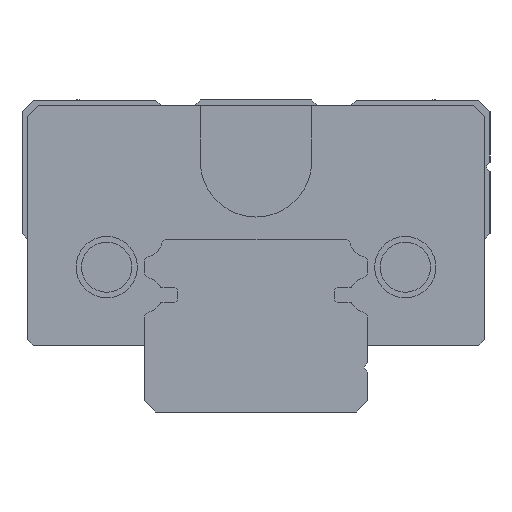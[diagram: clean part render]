
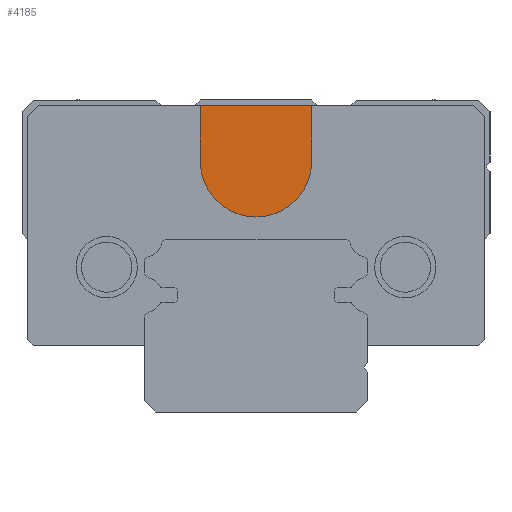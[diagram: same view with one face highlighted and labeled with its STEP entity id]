
A CAD part, left-side view. The second image highlights one B-rep face of the part: STEP entity #4185.
In plain terms, the highlighted planar face has unit normal (-1, 0, 0).
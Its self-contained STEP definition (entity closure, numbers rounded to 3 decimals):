
#4070=CARTESIAN_POINT('',(170.608,-5.0,22.5));
#4071=VERTEX_POINT('',#4070);
#4072=CARTESIAN_POINT('',(170.608,-5.0,27.5));
#4073=VERTEX_POINT('',#4072);
#4074=CARTESIAN_POINT('',(170.608,-5.0,22.5));
#4075=DIRECTION('',(0.0,0.0,1.0));
#4076=VECTOR('',#4075,5.0);
#4077=LINE('',#4074,#4076);
#4078=EDGE_CURVE('',#4071,#4073,#4077,.T.);
#4110=CARTESIAN_POINT('',(170.608,5.0,27.5));
#4111=VERTEX_POINT('',#4110);
#4112=CARTESIAN_POINT('',(170.608,5.0,22.5));
#4113=VERTEX_POINT('',#4112);
#4114=CARTESIAN_POINT('',(170.608,5.0,27.5));
#4115=DIRECTION('',(0.0,0.0,-1.0));
#4116=VECTOR('',#4115,5.0);
#4117=LINE('',#4114,#4116);
#4118=EDGE_CURVE('',#4111,#4113,#4117,.T.);
#4150=CARTESIAN_POINT('',(170.608,0.0,22.5));
#4151=DIRECTION('',(-1.0,0.0,0.0));
#4152=DIRECTION('',(0.0,-1.0,0.0));
#4153=AXIS2_PLACEMENT_3D('',#4150,#4151,#4152);
#4154=CIRCLE('',#4153,5.0);
#4155=EDGE_CURVE('',#4113,#4071,#4154,.T.);
#4169=CARTESIAN_POINT('',(170.608,0.,23.338));
#4170=DIRECTION('',(1.0,0.0,0.0));
#4171=DIRECTION('',(0.0,0.0,-1.0));
#4172=AXIS2_PLACEMENT_3D('',#4169,#4170,#4171);
#4173=PLANE('',#4172);
#4174=ORIENTED_EDGE('',*,*,#4078,.T.);
#4175=CARTESIAN_POINT('',(170.608,5.0,27.5));
#4176=DIRECTION('',(0.0,-1.0,0.0));
#4177=VECTOR('',#4176,10.0);
#4178=LINE('',#4175,#4177);
#4179=EDGE_CURVE('',#4111,#4073,#4178,.T.);
#4180=ORIENTED_EDGE('',*,*,#4179,.F.);
#4181=ORIENTED_EDGE('',*,*,#4118,.T.);
#4182=ORIENTED_EDGE('',*,*,#4155,.T.);
#4183=EDGE_LOOP('',(#4174,#4180,#4181,#4182));
#4184=FACE_OUTER_BOUND('',#4183,.T.);
#4185=ADVANCED_FACE('',(#4184),#4173,.F.);
